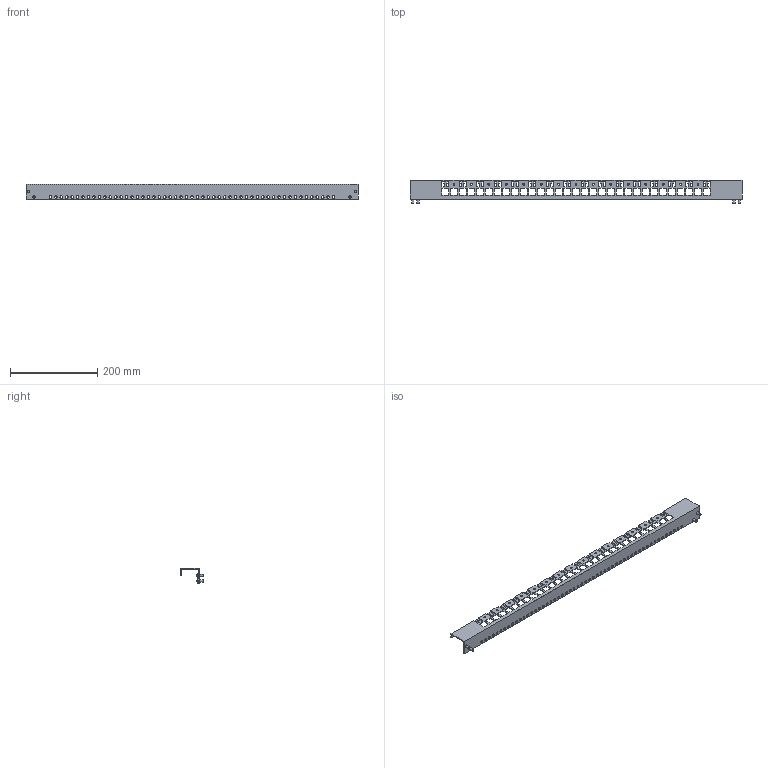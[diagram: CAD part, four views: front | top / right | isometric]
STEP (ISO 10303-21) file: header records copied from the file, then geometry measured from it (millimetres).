
FILE_DESCRIPTION(('Open CASCADE Model'),'2;1');
FILE_NAME('Open CASCADE Shape Model','2025-02-21T17:27:13',('Author'),( 'Open CASCADE'),'Open CASCADE STEP processor 7.8','Open CASCADE 7.8' ,'Unknown');
FILE_SCHEMA(('AUTOMOTIVE_DESIGN { 1 0 10303 214 1 1 1 1 }'));
Length unit declared in the file: millimetre
Products named in the file (3): Compound1; Solid1; Solid2
Assembly tree (5 placements, depth 2):
  Compound1
    Solid1
    Solid2  x4
Bounding box: 762 x 53.5 x 35 mm (x, y, z)
Volume: 112291.5 mm3; surface area: 125787.3 mm2
Topology: 5 solids, 5 shells, 559 faces, 1763 edges, 1186 vertices
Faces by surface type: plane 440, cylinder 95, torus 8, cone 8, sphere 4, bspline 4
Full cylindrical faces by diameter (mm): 4.4 x30, 5 x4, 6 x57, 9.5 x4
Entity records: 19124 total; most frequent: CARTESIAN_POINT 3783, ORIENTED_EDGE 3344, DIRECTION 2858, EDGE_CURVE 1672, LINE 1314, VECTOR 1314, VERTEX_POINT 1135, AXIS2_PLACEMENT_3D 772
